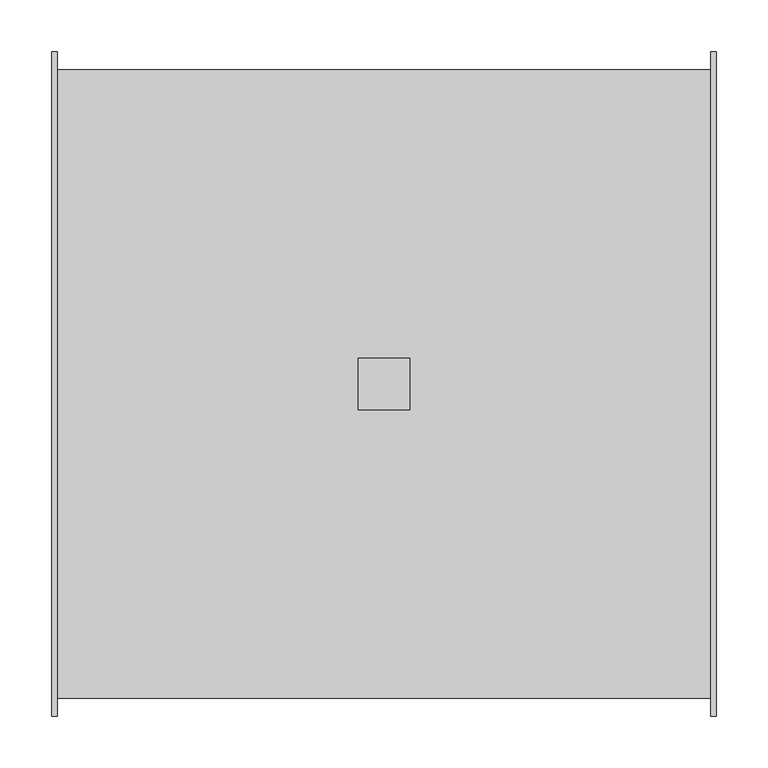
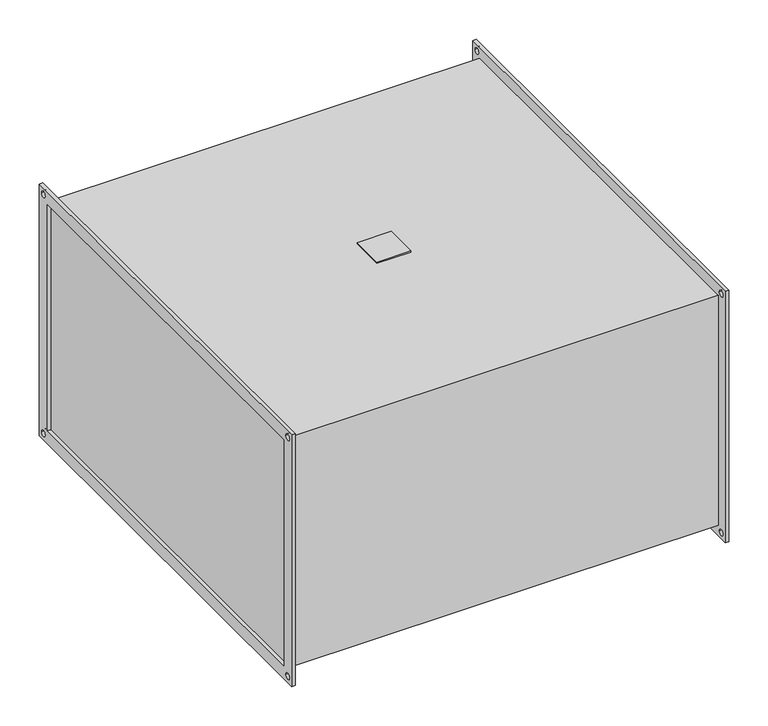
"""IFC4 building model written with IfcOpenShell, lengths in millimetres: damper geometry, KORF_Фильтр_Карманный_FKR : FKR 60-35  EU5."""

from ifc_helpers import new_model, si_unit, point, frame, frame_2d, origin, place, context, project, spatial, polyline, circle_curve, trimmed, segment, composite_curve, outline, extrude, source, transform, mapped, element, save


def damper_272f7c6b(model_context):
    return source(origin(), model_context, "Body", "SweptSolid", [
        extrude(outline(polyline([(345.0, 25.0), (345.0, -25.0), (295.0, -25.0), (295.0, 25.0), (345.0, 25.0)])), frame((0.0, 0.0, 178.0), z_axis=(0.0, 0.0, 1.0), x_axis=(1.0, 0.0, 0.0)), (0.0, 0.0, 1.0), 2.0),
        extrude(outline(polyline([(-320.0, 195.0), (320.0, 195.0), (320.0, -195.0), (-320.0, -195.0), (-320.0, 195.0)]), holes=[polyline([(-300.0, 175.0), (-300.0, -175.0), (300.0, -175.0), (300.0, 175.0), (-300.0, 175.0)]), composite_curve([segment(trimmed(circle_curve(frame_2d((310.0, 185.0)), 4.5), [point((305.5, 185.0))], [point((314.5, 185.0))], True, "CARTESIAN"), True, "CONTINUOUS"), segment(trimmed(circle_curve(frame_2d((310.0, 185.0)), 4.5), [point((314.5, 185.0))], [point((305.5, 185.0))], True, "CARTESIAN"), True, "CONTINUOUS")], self_intersect=False), composite_curve([segment(trimmed(circle_curve(frame_2d((-310.0, 185.0)), 4.5), [point((-314.5, 185.0))], [point((-305.5, 185.0))], True, "CARTESIAN"), True, "CONTINUOUS"), segment(trimmed(circle_curve(frame_2d((-310.0, 185.0)), 4.5), [point((-305.5, 185.0))], [point((-314.5, 185.0))], True, "CARTESIAN"), True, "CONTINUOUS")], self_intersect=False), composite_curve([segment(trimmed(circle_curve(frame_2d((-310.0, -185.0)), 4.5), [point((-314.5, -185.0))], [point((-305.5, -185.0))], True, "CARTESIAN"), True, "CONTINUOUS"), segment(trimmed(circle_curve(frame_2d((-310.0, -185.0)), 4.5), [point((-305.5, -185.0))], [point((-314.5, -185.0))], True, "CARTESIAN"), True, "CONTINUOUS")], self_intersect=False), composite_curve([segment(trimmed(circle_curve(frame_2d((310.0, -185.0)), 4.5), [point((305.5, -185.0))], [point((314.5, -185.0))], True, "CARTESIAN"), True, "CONTINUOUS"), segment(trimmed(circle_curve(frame_2d((310.0, -185.0)), 4.5), [point((314.5, -185.0))], [point((305.5, -185.0))], True, "CARTESIAN"), True, "CONTINUOUS")], self_intersect=False)]), frame((635.0, 0.0, 0.0), z_axis=(1.0, 0.0, 0.0), x_axis=(0.0, 1.0, 0.0)), (0.0, 0.0, 1.0), 5.0),
        extrude(outline(polyline([(-320.0, 195.0), (320.0, 195.0), (320.0, -195.0), (-320.0, -195.0), (-320.0, 195.0)]), holes=[polyline([(-300.0, 175.0), (-300.0, -175.0), (300.0, -175.0), (300.0, 175.0), (-300.0, 175.0)]), composite_curve([segment(trimmed(circle_curve(frame_2d((310.0, 185.0)), 4.5), [point((305.5, 185.0))], [point((314.5, 185.0))], True, "CARTESIAN"), True, "CONTINUOUS"), segment(trimmed(circle_curve(frame_2d((310.0, 185.0)), 4.5), [point((314.5, 185.0))], [point((305.5, 185.0))], True, "CARTESIAN"), True, "CONTINUOUS")], self_intersect=False), composite_curve([segment(trimmed(circle_curve(frame_2d((-310.0, 185.0)), 4.5), [point((-314.5, 185.0))], [point((-305.5, 185.0))], True, "CARTESIAN"), True, "CONTINUOUS"), segment(trimmed(circle_curve(frame_2d((-310.0, 185.0)), 4.5), [point((-305.5, 185.0))], [point((-314.5, 185.0))], True, "CARTESIAN"), True, "CONTINUOUS")], self_intersect=False), composite_curve([segment(trimmed(circle_curve(frame_2d((-310.0, -185.0)), 4.5), [point((-314.5, -185.0))], [point((-305.5, -185.0))], True, "CARTESIAN"), True, "CONTINUOUS"), segment(trimmed(circle_curve(frame_2d((-310.0, -185.0)), 4.5), [point((-305.5, -185.0))], [point((-314.5, -185.0))], True, "CARTESIAN"), True, "CONTINUOUS")], self_intersect=False), composite_curve([segment(trimmed(circle_curve(frame_2d((310.0, -185.0)), 4.5), [point((305.5, -185.0))], [point((314.5, -185.0))], True, "CARTESIAN"), True, "CONTINUOUS"), segment(trimmed(circle_curve(frame_2d((310.0, -185.0)), 4.5), [point((314.5, -185.0))], [point((305.5, -185.0))], True, "CARTESIAN"), True, "CONTINUOUS")], self_intersect=False)]), frame((0.0, 0.0, 0.0), z_axis=(1.0, 0.0, 0.0), x_axis=(0.0, 1.0, 0.0)), (0.0, 0.0, 1.0), 5.0),
        extrude(outline(polyline([(635.0, 303.0), (635.0, -303.0), (5.0, -303.0), (5.0, 303.0), (635.0, 303.0)])), frame((0.0, 0.0, -178.0), z_axis=(0.0, 0.0, 1.0), x_axis=(1.0, 0.0, 0.0)), (0.0, 0.0, 1.0), 356.0),
    ])


if __name__ == "__main__":
    model = new_model("IFC4")
    model_context = context("Model", 3, world=origin())
    ifc_project = project(units=[si_unit("LENGTHUNIT", "METRE", prefix="MILLI")], contexts=[model_context])
    site = spatial("IfcSite", under=ifc_project)
    building = spatial("IfcBuilding", under=site)
    placement = place(None, origin())
    damper_shape = damper_272f7c6b(model_context)
    element("IfcDamper", 1, ObjectType="KORF_Фильтр_Карманный_FKR : FKR 60-35  EU5", at=placement, inside=building, context=model_context, shape_type="MappedRepresentation", body=[
        mapped(damper_shape, transform((0.0, 0.0, 0.0), x_axis=(1.0, 0.0, 0.0), y_axis=(0.0, 1.0, 0.0), z_axis=(0.0, 0.0, 1.0))),
    ])
    save(model, "model.ifc")
